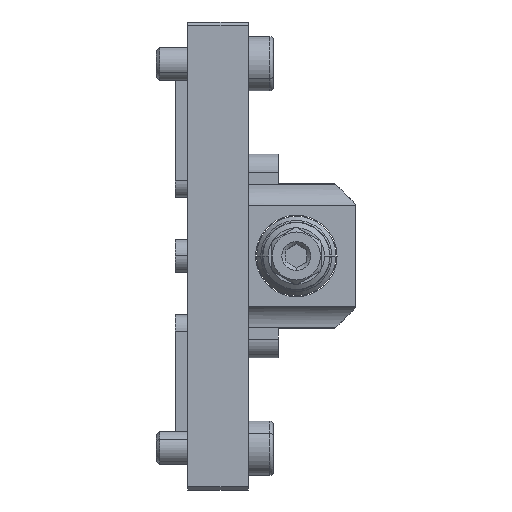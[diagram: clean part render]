
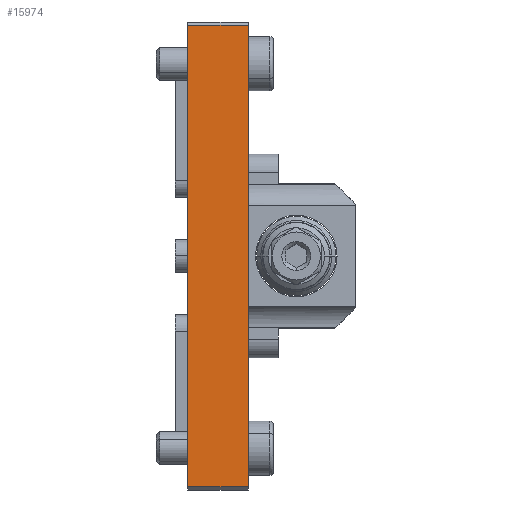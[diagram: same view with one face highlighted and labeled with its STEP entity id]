
A CAD part, left-side view. The second image highlights one B-rep face of the part: STEP entity #15974.
In plain terms, the highlighted planar face has unit normal (-1, 0, 0).
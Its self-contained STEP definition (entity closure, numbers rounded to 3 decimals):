
#60 = CARTESIAN_POINT ( 'NONE',  ( -20., 11.5, -56. ) ) ;
#601 = CARTESIAN_POINT ( 'NONE',  ( -20., 11.3, 55.2 ) ) ;
#1222 = LINE ( 'NONE', #60, #5479 ) ;
#1302 = EDGE_CURVE ( 'NONE', #13430, #13998, #11733, .T. ) ;
#1581 = EDGE_CURVE ( 'NONE', #6626, #13998, #1222, .T. ) ;
#1787 = CARTESIAN_POINT ( 'NONE',  ( -20., 11.5, 55.2 ) ) ;
#1835 = VECTOR ( 'NONE', #5568, 1000. ) ;
#2827 = DIRECTION ( 'NONE',  ( 0., 0., -1. ) ) ;
#3388 = CARTESIAN_POINT ( 'NONE',  ( -20., -17.9, -56. ) ) ;
#3724 = ORIENTED_EDGE ( 'NONE', *, *, #7108, .T. ) ;
#4962 = FACE_OUTER_BOUND ( 'NONE', #6770, .T. ) ;
#5138 = VERTEX_POINT ( 'NONE', #14319 ) ;
#5479 = VECTOR ( 'NONE', #14527, 1000. ) ;
#5568 = DIRECTION ( 'NONE',  ( 0., -1., 0. ) ) ;
#6508 = ORIENTED_EDGE ( 'NONE', *, *, #11048, .F. ) ;
#6626 = VERTEX_POINT ( 'NONE', #8315 ) ;
#6770 = EDGE_LOOP ( 'NONE', ( #6508, #10668, #13714, #3724 ) ) ;
#6877 = DIRECTION ( 'NONE',  ( 0., -1., 0. ) ) ;
#7108 = EDGE_CURVE ( 'NONE', #13430, #5138, #11132, .T. ) ;
#7757 = VECTOR ( 'NONE', #2827, 1000. ) ;
#8315 = CARTESIAN_POINT ( 'NONE',  ( -20., 11.5, -55.2 ) ) ;
#8781 = AXIS2_PLACEMENT_3D ( 'NONE', #3388, #13281, #6877 ) ;
#10668 = ORIENTED_EDGE ( 'NONE', *, *, #1581, .T. ) ;
#11048 = EDGE_CURVE ( 'NONE', #6626, #5138, #11116, .T. ) ;
#11116 = LINE ( 'NONE', #12560, #12554 ) ;
#11132 = LINE ( 'NONE', #13951, #7757 ) ;
#11733 = LINE ( 'NONE', #601, #1835 ) ;
#12554 = VECTOR ( 'NONE', #16010, 1000. ) ;
#12560 = CARTESIAN_POINT ( 'NONE',  ( -20., 11.3, -55.2 ) ) ;
#12738 = CARTESIAN_POINT ( 'NONE',  ( -20., 26., 55.2 ) ) ;
#13281 = DIRECTION ( 'NONE',  ( -1., 0., 0. ) ) ;
#13430 = VERTEX_POINT ( 'NONE', #12738 ) ;
#13714 = ORIENTED_EDGE ( 'NONE', *, *, #1302, .F. ) ;
#13951 = CARTESIAN_POINT ( 'NONE',  ( -20., 26., -58. ) ) ;
#13998 = VERTEX_POINT ( 'NONE', #1787 ) ;
#14319 = CARTESIAN_POINT ( 'NONE',  ( -20., 26., -55.2 ) ) ;
#14527 = DIRECTION ( 'NONE',  ( 0., 0., 1. ) ) ;
#14846 = PLANE ( 'NONE',  #8781 ) ;
#15974 = ADVANCED_FACE ( 'NONE', ( #4962 ), #14846, .T. ) ;
#16010 = DIRECTION ( 'NONE',  ( 0., 1., 0. ) ) ;
